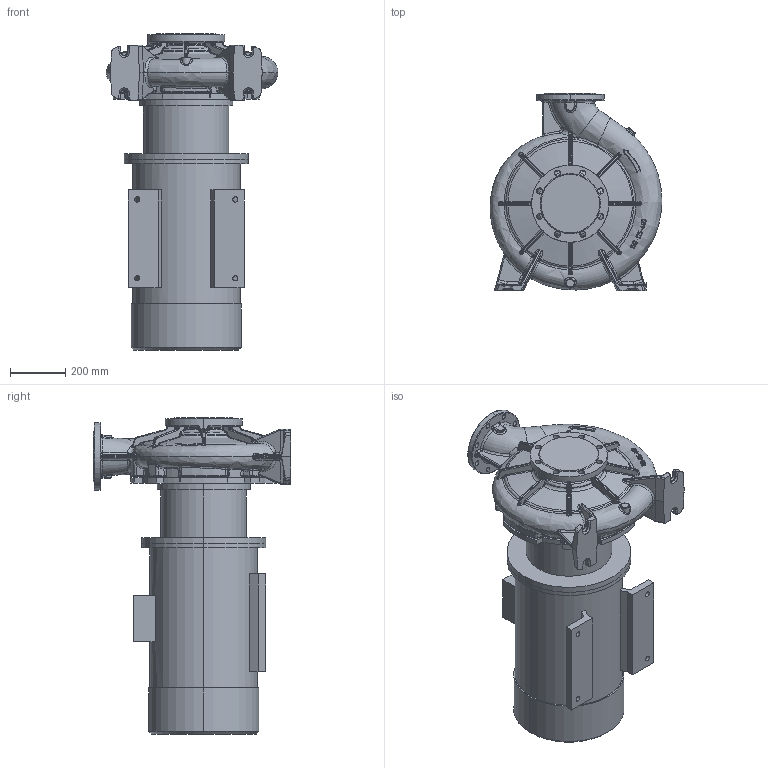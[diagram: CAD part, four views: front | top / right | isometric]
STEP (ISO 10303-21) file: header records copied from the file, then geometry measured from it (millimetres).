
FILE_DESCRIPTION (( 'STEP AP203' ), '1' );
FILE_NAME ('KRM 150-125-400.STEP', '2026-05-06T08:18:38', ( '' ), ( '' ), 'SwSTEP 2.0', 'SolidWorks 2016', '' );
FILE_SCHEMA (( 'CONFIG_CONTROL_DESIGN' ));
Length unit declared in the file: millimetre
Products named in the file (7): Äâèãàòåëè KRM_225S4; Í49.1415.01.00.003 Êðûøêà êîðïóñà äëÿ ñàéòà; Ôîíàðü+äâèãàòåëü KRM-4-37; 婜縺謶_1473; KRM 150-125-400 署赅 觐痫篑 襻铕赅; Í49.1415.01.00.001 Êîðïóñ íàñîñà äëÿ ñàéòà; KRM 150-125-400
Assembly tree (6 placements, depth 3):
  KRM 150-125-400
    KRM 150-125-400 署赅 觐痫篑 襻铕赅
      Í49.1415.01.00.001 Êîðïóñ íàñîñà äëÿ ñàéòà
      Í49.1415.01.00.003 Êðûøêà êîðïóñà äëÿ ñàéòà
    Ôîíàðü+äâèãàòåëü KRM-4-37
      Äâèãàòåëè KRM_225S4
      婜縺謶_1473
Bounding box: 623.09 x 715 x 1145.8 mm (x, y, z)
Volume: 157499339.8 mm3; surface area: 3828986.6 mm2
Topology: 4 solids, 4 shells, 1651 faces, 4126 edges, 2459 vertices
Faces by surface type: bspline 797, cylinder 312, plane 298, torus 130, cone 76, sphere 38
Entity records: 116741 total; most frequent: CARTESIAN_POINT 82838, ORIENTED_EDGE 8144, DIRECTION 5366, EDGE_CURVE 4072, VERTEX_POINT 2459, AXIS2_PLACEMENT_3D 2211, EDGE_LOOP 1721, FACE_OUTER_BOUND 1651
